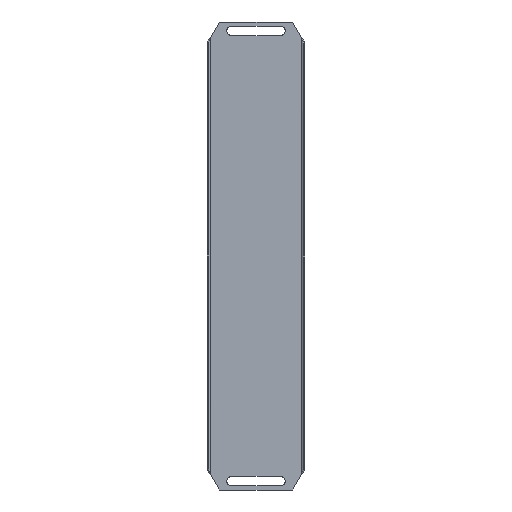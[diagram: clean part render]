
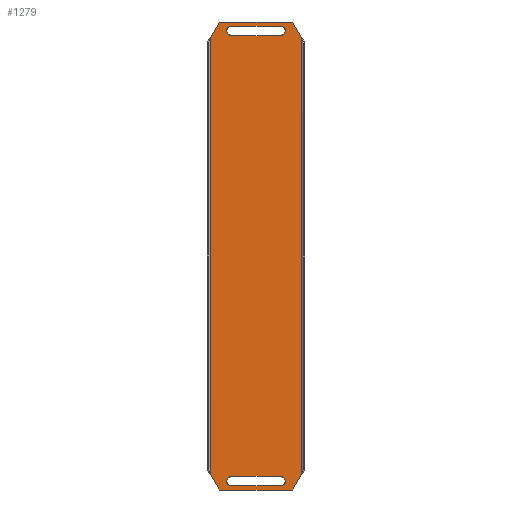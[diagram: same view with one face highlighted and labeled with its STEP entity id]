
A CAD part, front view. The second image highlights one B-rep face of the part: STEP entity #1279.
In plain terms, the highlighted planar face has unit normal (0, -1, 0).
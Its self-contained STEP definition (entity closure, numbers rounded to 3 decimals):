
#51 = ORIENTED_EDGE ( 'NONE', *, *, #161, .F. ) ;
#81 = DIRECTION ( 'NONE',  ( 0., -1., 0. ) ) ;
#94 = EDGE_CURVE ( 'NONE', #1283, #1177, #686, .T. ) ;
#103 = ORIENTED_EDGE ( 'NONE', *, *, #110, .T. ) ;
#110 = EDGE_CURVE ( 'NONE', #716, #757, #863, .T. ) ;
#128 = VERTEX_POINT ( 'NONE', #1145 ) ;
#140 = FACE_BOUND ( 'NONE', #758, .T. ) ;
#146 = EDGE_CURVE ( 'NONE', #960, #716, #1146, .T. ) ;
#148 = CARTESIAN_POINT ( 'NONE',  ( 32.3, -1.2, 149.781 ) ) ;
#156 = CARTESIAN_POINT ( 'NONE',  ( -15.55, -1.2, -151. ) ) ;
#158 = CARTESIAN_POINT ( 'NONE',  ( 26.145, -1.2, 160.25 ) ) ;
#161 = EDGE_CURVE ( 'NONE', #238, #737, #1052, .T. ) ;
#167 = DIRECTION ( 'NONE',  ( 1., 0., 0. ) ) ;
#196 = DIRECTION ( 'NONE',  ( 0., 0., 1. ) ) ;
#203 = CARTESIAN_POINT ( 'NONE',  ( -29.9, -1.2, 160.25 ) ) ;
#238 = VERTEX_POINT ( 'NONE', #442 ) ;
#242 = LINE ( 'NONE', #1170, #987 ) ;
#247 = ORIENTED_EDGE ( 'NONE', *, *, #759, .T. ) ;
#251 = CARTESIAN_POINT ( 'NONE',  ( 26.145, -1.2, -160.25 ) ) ;
#256 = CARTESIAN_POINT ( 'NONE',  ( -29.9, -1.2, -149.781 ) ) ;
#266 = CARTESIAN_POINT ( 'NONE',  ( 0., -1.2, 0. ) ) ;
#281 = LINE ( 'NONE', #874, #1067 ) ;
#287 = ORIENTED_EDGE ( 'NONE', *, *, #979, .T. ) ;
#303 = VECTOR ( 'NONE', #167, 1000. ) ;
#338 = EDGE_CURVE ( 'NONE', #1281, #995, #1096, .T. ) ;
#345 = CARTESIAN_POINT ( 'NONE',  ( -29.9, -1.2, 149.781 ) ) ;
#347 = VECTOR ( 'NONE', #963, 1000. ) ;
#348 = DIRECTION ( 'NONE',  ( 0., 0., -1. ) ) ;
#357 = CARTESIAN_POINT ( 'NONE',  ( -15.55, -1.2, 157.5 ) ) ;
#372 = EDGE_LOOP ( 'NONE', ( #584, #750, #51, #705, #923, #392, #763, #593 ) ) ;
#373 = CARTESIAN_POINT ( 'NONE',  ( 17.95, -1.2, 157.5 ) ) ;
#384 = VECTOR ( 'NONE', #1041, 1000. ) ;
#392 = ORIENTED_EDGE ( 'NONE', *, *, #1106, .T. ) ;
#417 = EDGE_CURVE ( 'NONE', #522, #902, #281, .T. ) ;
#427 = DIRECTION ( 'NONE',  ( 0., 1., 0. ) ) ;
#437 = CARTESIAN_POINT ( 'NONE',  ( -15.55, -1.2, 154.25 ) ) ;
#442 = CARTESIAN_POINT ( 'NONE',  ( -29.9, -1.2, -149.781 ) ) ;
#450 = VECTOR ( 'NONE', #662, 1000. ) ;
#475 = CARTESIAN_POINT ( 'NONE',  ( -23.745, -1.2, -160.25 ) ) ;
#486 = EDGE_CURVE ( 'NONE', #1055, #902, #1068, .T. ) ;
#489 = AXIS2_PLACEMENT_3D ( 'NONE', #678, #777, #196 ) ;
#505 = DIRECTION ( 'NONE',  ( -1., 0., 0. ) ) ;
#509 = AXIS2_PLACEMENT_3D ( 'NONE', #266, #81, #348 ) ;
#522 = VERTEX_POINT ( 'NONE', #787 ) ;
#533 = LINE ( 'NONE', #148, #847 ) ;
#548 = VECTOR ( 'NONE', #982, 1000. ) ;
#561 = CARTESIAN_POINT ( 'NONE',  ( -15.55, -1.2, -151. ) ) ;
#570 = AXIS2_PLACEMENT_3D ( 'NONE', #1121, #1207, #999 ) ;
#573 = CIRCLE ( 'NONE', #489, 3.25 ) ;
#584 = ORIENTED_EDGE ( 'NONE', *, *, #486, .F. ) ;
#593 = ORIENTED_EDGE ( 'NONE', *, *, #417, .T. ) ;
#596 = ORIENTED_EDGE ( 'NONE', *, *, #962, .T. ) ;
#603 = CARTESIAN_POINT ( 'NONE',  ( -15.55, -1.2, 151. ) ) ;
#609 = EDGE_CURVE ( 'NONE', #1177, #792, #1084, .T. ) ;
#629 = FACE_OUTER_BOUND ( 'NONE', #372, .T. ) ;
#630 = DIRECTION ( 'NONE',  ( -1., 0., 0. ) ) ;
#635 = DIRECTION ( 'NONE',  ( 0., 0., 1. ) ) ;
#644 = CARTESIAN_POINT ( 'NONE',  ( 17.95, -1.2, -157.5 ) ) ;
#662 = DIRECTION ( 'NONE',  ( 0., 0., 1. ) ) ;
#678 = CARTESIAN_POINT ( 'NONE',  ( -15.55, -1.2, -154.25 ) ) ;
#686 = CIRCLE ( 'NONE', #570, 3.25 ) ;
#705 = ORIENTED_EDGE ( 'NONE', *, *, #981, .T. ) ;
#716 = VERTEX_POINT ( 'NONE', #818 ) ;
#737 = VERTEX_POINT ( 'NONE', #345 ) ;
#750 = ORIENTED_EDGE ( 'NONE', *, *, #1003, .T. ) ;
#755 = VERTEX_POINT ( 'NONE', #1226 ) ;
#756 = CARTESIAN_POINT ( 'NONE',  ( -29.9, -1.2, 149.781 ) ) ;
#757 = VERTEX_POINT ( 'NONE', #644 ) ;
#758 = EDGE_LOOP ( 'NONE', ( #247, #1203, #1284, #1077 ) ) ;
#759 = EDGE_CURVE ( 'NONE', #792, #755, #1054, .T. ) ;
#763 = ORIENTED_EDGE ( 'NONE', *, *, #1079, .F. ) ;
#777 = DIRECTION ( 'NONE',  ( 0., 1., 0. ) ) ;
#780 = VECTOR ( 'NONE', #505, 1000. ) ;
#784 = AXIS2_PLACEMENT_3D ( 'NONE', #437, #427, #635 ) ;
#787 = CARTESIAN_POINT ( 'NONE',  ( 32.3, -1.2, 149.781 ) ) ;
#792 = VERTEX_POINT ( 'NONE', #832 ) ;
#818 = CARTESIAN_POINT ( 'NONE',  ( 17.95, -1.2, -151. ) ) ;
#831 = LINE ( 'NONE', #927, #1138 ) ;
#832 = CARTESIAN_POINT ( 'NONE',  ( -15.55, -1.2, 151. ) ) ;
#847 = VECTOR ( 'NONE', #942, 1000. ) ;
#850 = DIRECTION ( 'NONE',  ( 1., 0., 0. ) ) ;
#863 = CIRCLE ( 'NONE', #924, 3.25 ) ;
#874 = CARTESIAN_POINT ( 'NONE',  ( 32.3, -1.2, 149.781 ) ) ;
#898 = LINE ( 'NONE', #1030, #1186 ) ;
#901 = EDGE_LOOP ( 'NONE', ( #287, #1225, #103, #596 ) ) ;
#902 = VERTEX_POINT ( 'NONE', #158 ) ;
#923 = ORIENTED_EDGE ( 'NONE', *, *, #338, .F. ) ;
#924 = AXIS2_PLACEMENT_3D ( 'NONE', #1018, #1247, #1036 ) ;
#927 = CARTESIAN_POINT ( 'NONE',  ( -15.55, -1.2, -157.5 ) ) ;
#936 = CARTESIAN_POINT ( 'NONE',  ( 17.95, -1.2, 151. ) ) ;
#940 = PLANE ( 'NONE',  #509 ) ;
#942 = DIRECTION ( 'NONE',  ( 0., 0., -1. ) ) ;
#960 = VERTEX_POINT ( 'NONE', #156 ) ;
#962 = EDGE_CURVE ( 'NONE', #757, #128, #831, .T. ) ;
#963 = DIRECTION ( 'NONE',  ( -1., 0., 0. ) ) ;
#979 = EDGE_CURVE ( 'NONE', #128, #960, #573, .T. ) ;
#981 = EDGE_CURVE ( 'NONE', #238, #995, #242, .T. ) ;
#982 = DIRECTION ( 'NONE',  ( 1., 0., 0. ) ) ;
#987 = VECTOR ( 'NONE', #1174, 1000. ) ;
#995 = VERTEX_POINT ( 'NONE', #475 ) ;
#999 = DIRECTION ( 'NONE',  ( 0., 0., 1. ) ) ;
#1003 = EDGE_CURVE ( 'NONE', #1055, #737, #1193, .T. ) ;
#1012 = DIRECTION ( 'NONE',  ( 0.507, 0., 0.862 ) ) ;
#1018 = CARTESIAN_POINT ( 'NONE',  ( 17.95, -1.2, -154.25 ) ) ;
#1020 = LINE ( 'NONE', #357, #303 ) ;
#1028 = VERTEX_POINT ( 'NONE', #1162 ) ;
#1030 = CARTESIAN_POINT ( 'NONE',  ( 32.3, -1.2, -149.781 ) ) ;
#1036 = DIRECTION ( 'NONE',  ( 0., 0., 1. ) ) ;
#1041 = DIRECTION ( 'NONE',  ( -0.507, 0., -0.862 ) ) ;
#1052 = LINE ( 'NONE', #256, #450 ) ;
#1053 = CARTESIAN_POINT ( 'NONE',  ( -23.745, -1.2, 160.25 ) ) ;
#1054 = CIRCLE ( 'NONE', #784, 3.25 ) ;
#1055 = VERTEX_POINT ( 'NONE', #1053 ) ;
#1067 = VECTOR ( 'NONE', #1164, 1000. ) ;
#1068 = LINE ( 'NONE', #203, #548 ) ;
#1077 = ORIENTED_EDGE ( 'NONE', *, *, #609, .T. ) ;
#1079 = EDGE_CURVE ( 'NONE', #522, #1028, #533, .T. ) ;
#1084 = LINE ( 'NONE', #603, #780 ) ;
#1096 = LINE ( 'NONE', #1267, #347 ) ;
#1106 = EDGE_CURVE ( 'NONE', #1281, #1028, #898, .T. ) ;
#1121 = CARTESIAN_POINT ( 'NONE',  ( 17.95, -1.2, 154.25 ) ) ;
#1138 = VECTOR ( 'NONE', #630, 1000. ) ;
#1145 = CARTESIAN_POINT ( 'NONE',  ( -15.55, -1.2, -157.5 ) ) ;
#1146 = LINE ( 'NONE', #561, #1183 ) ;
#1162 = CARTESIAN_POINT ( 'NONE',  ( 32.3, -1.2, -149.781 ) ) ;
#1164 = DIRECTION ( 'NONE',  ( -0.507, 0., 0.862 ) ) ;
#1170 = CARTESIAN_POINT ( 'NONE',  ( -29.9, -1.2, -149.781 ) ) ;
#1174 = DIRECTION ( 'NONE',  ( 0.507, 0., -0.862 ) ) ;
#1177 = VERTEX_POINT ( 'NONE', #936 ) ;
#1183 = VECTOR ( 'NONE', #850, 1000. ) ;
#1186 = VECTOR ( 'NONE', #1012, 1000. ) ;
#1193 = LINE ( 'NONE', #756, #384 ) ;
#1203 = ORIENTED_EDGE ( 'NONE', *, *, #1213, .T. ) ;
#1207 = DIRECTION ( 'NONE',  ( 0., 1., 0. ) ) ;
#1208 = FACE_BOUND ( 'NONE', #901, .T. ) ;
#1213 = EDGE_CURVE ( 'NONE', #755, #1283, #1020, .T. ) ;
#1225 = ORIENTED_EDGE ( 'NONE', *, *, #146, .T. ) ;
#1226 = CARTESIAN_POINT ( 'NONE',  ( -15.55, -1.2, 157.5 ) ) ;
#1247 = DIRECTION ( 'NONE',  ( 0., 1., 0. ) ) ;
#1267 = CARTESIAN_POINT ( 'NONE',  ( -29.9, -1.2, -160.25 ) ) ;
#1279 = ADVANCED_FACE ( 'NONE', ( #140, #1208, #629 ), #940, .T. ) ;
#1281 = VERTEX_POINT ( 'NONE', #251 ) ;
#1283 = VERTEX_POINT ( 'NONE', #373 ) ;
#1284 = ORIENTED_EDGE ( 'NONE', *, *, #94, .T. ) ;
